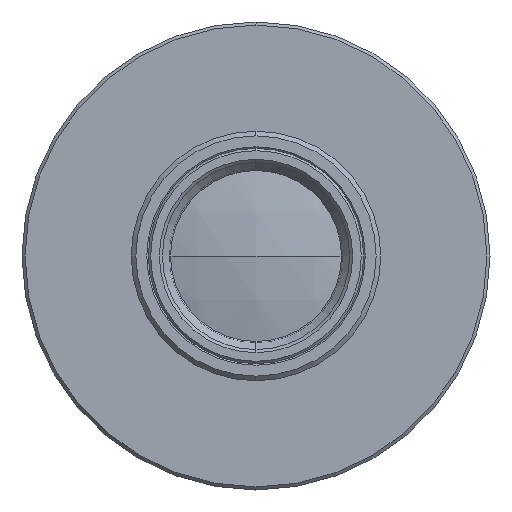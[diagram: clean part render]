
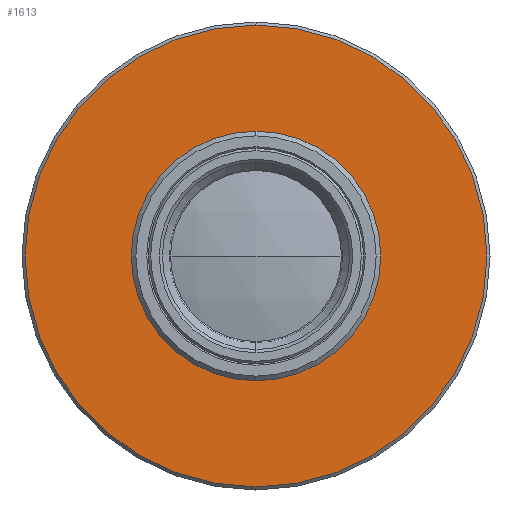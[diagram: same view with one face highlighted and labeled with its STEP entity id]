
A CAD part, left-side view. The second image highlights one B-rep face of the part: STEP entity #1613.
In plain terms, the highlighted planar face has unit normal (-1, 0, 0).
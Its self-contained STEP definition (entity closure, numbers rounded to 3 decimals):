
#52 = DIRECTION ( 'NONE',  ( -1., 0., 0. ) ) ;
#60 = CIRCLE ( 'NONE', #1626, 14.8 ) ;
#67 = AXIS2_PLACEMENT_3D ( 'NONE', #1034, #256, #1164 ) ;
#128 = EDGE_CURVE ( 'NONE', #954, #828, #1023, .T. ) ;
#133 = DIRECTION ( 'NONE',  ( 0., 0., -1. ) ) ;
#151 = CIRCLE ( 'NONE', #379, 8. ) ;
#256 = DIRECTION ( 'NONE',  ( -1., 0., 0. ) ) ;
#262 = ORIENTED_EDGE ( 'NONE', *, *, #650, .F. ) ;
#379 = AXIS2_PLACEMENT_3D ( 'NONE', #1536, #762, #1301 ) ;
#497 = EDGE_LOOP ( 'NONE', ( #531, #696 ) ) ;
#531 = ORIENTED_EDGE ( 'NONE', *, *, #128, .T. ) ;
#533 = FACE_BOUND ( 'NONE', #1214, .T. ) ;
#535 = CARTESIAN_POINT ( 'NONE',  ( 121.961, 0., -14.8 ) ) ;
#560 = EDGE_CURVE ( 'NONE', #941, #1638, #1302, .T. ) ;
#648 = PLANE ( 'NONE',  #919 ) ;
#650 = EDGE_CURVE ( 'NONE', #1638, #941, #151, .T. ) ;
#692 = DIRECTION ( 'NONE',  ( -1., 0., 0. ) ) ;
#696 = ORIENTED_EDGE ( 'NONE', *, *, #1484, .T. ) ;
#762 = DIRECTION ( 'NONE',  ( -1., 0., 0. ) ) ;
#791 = CARTESIAN_POINT ( 'NONE',  ( 121.961, 0., -8. ) ) ;
#828 = VERTEX_POINT ( 'NONE', #977 ) ;
#833 = CARTESIAN_POINT ( 'NONE',  ( 121.961, 0., 0. ) ) ;
#911 = CARTESIAN_POINT ( 'NONE',  ( 121.961, 8., 0. ) ) ;
#918 = DIRECTION ( 'NONE',  ( 1., 0., 0. ) ) ;
#919 = AXIS2_PLACEMENT_3D ( 'NONE', #911, #918, #133 ) ;
#941 = VERTEX_POINT ( 'NONE', #1437 ) ;
#954 = VERTEX_POINT ( 'NONE', #535 ) ;
#963 = DIRECTION ( 'NONE',  ( 0., 0., 1. ) ) ;
#977 = CARTESIAN_POINT ( 'NONE',  ( 121.961, 0., 14.8 ) ) ;
#1023 = CIRCLE ( 'NONE', #67, 14.8 ) ;
#1034 = CARTESIAN_POINT ( 'NONE',  ( 121.961, 0., 0. ) ) ;
#1164 = DIRECTION ( 'NONE',  ( 0., 0., 1. ) ) ;
#1198 = AXIS2_PLACEMENT_3D ( 'NONE', #1592, #692, #1463 ) ;
#1214 = EDGE_LOOP ( 'NONE', ( #1453, #262 ) ) ;
#1235 = FACE_OUTER_BOUND ( 'NONE', #497, .T. ) ;
#1301 = DIRECTION ( 'NONE',  ( 0., 0., 1. ) ) ;
#1302 = CIRCLE ( 'NONE', #1198, 8. ) ;
#1437 = CARTESIAN_POINT ( 'NONE',  ( 121.961, 0., 8. ) ) ;
#1453 = ORIENTED_EDGE ( 'NONE', *, *, #560, .F. ) ;
#1463 = DIRECTION ( 'NONE',  ( 0., 0., 1. ) ) ;
#1484 = EDGE_CURVE ( 'NONE', #828, #954, #60, .T. ) ;
#1536 = CARTESIAN_POINT ( 'NONE',  ( 121.961, 0., 0. ) ) ;
#1592 = CARTESIAN_POINT ( 'NONE',  ( 121.961, 0., 0. ) ) ;
#1613 = ADVANCED_FACE ( 'NONE', ( #533, #1235 ), #648, .F. ) ;
#1626 = AXIS2_PLACEMENT_3D ( 'NONE', #833, #52, #963 ) ;
#1638 = VERTEX_POINT ( 'NONE', #791 ) ;
